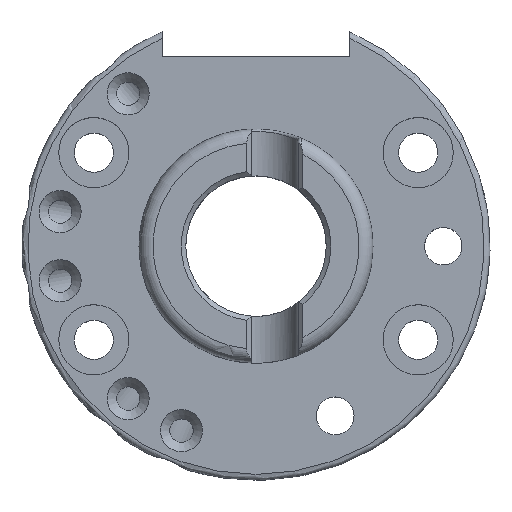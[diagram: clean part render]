
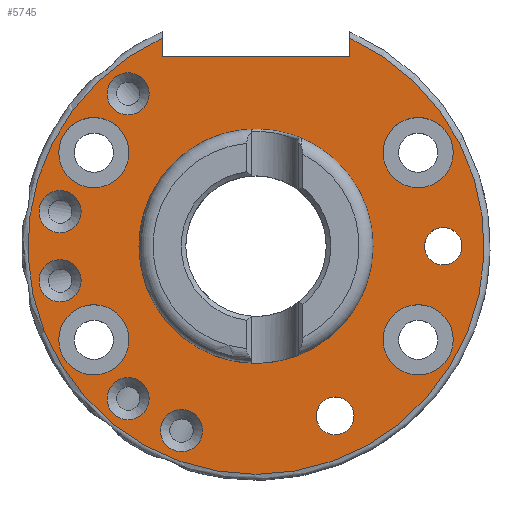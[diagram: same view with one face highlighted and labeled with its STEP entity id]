
A CAD part, top view. The second image highlights one B-rep face of the part: STEP entity #5745.
In plain terms, the highlighted planar face has unit normal (0, 0, 1).
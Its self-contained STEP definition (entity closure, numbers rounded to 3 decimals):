
#94=CIRCLE('',#5894,48.75);
#127=CIRCLE('',#5961,4.5);
#129=CIRCLE('',#5965,4.5);
#131=CIRCLE('',#5969,4.5);
#133=CIRCLE('',#5973,4.5);
#135=CIRCLE('',#5977,4.5);
#137=CIRCLE('',#5981,4.);
#141=CIRCLE('',#5987,7.5);
#145=CIRCLE('',#5994,7.5);
#149=CIRCLE('',#6001,7.5);
#153=CIRCLE('',#6008,7.5);
#155=CIRCLE('',#6012,4.05);
#161=CIRCLE('',#6026,25.);
#346=FACE_BOUND('',#1013,.T.);
#347=FACE_BOUND('',#1014,.T.);
#348=FACE_BOUND('',#1015,.T.);
#349=FACE_BOUND('',#1016,.T.);
#350=FACE_BOUND('',#1017,.T.);
#351=FACE_BOUND('',#1018,.T.);
#352=FACE_BOUND('',#1019,.T.);
#353=FACE_BOUND('',#1020,.T.);
#354=FACE_BOUND('',#1021,.T.);
#355=FACE_BOUND('',#1022,.T.);
#356=FACE_BOUND('',#1023,.T.);
#357=FACE_BOUND('',#1024,.T.);
#660=FACE_OUTER_BOUND('',#1012,.T.);
#1012=EDGE_LOOP('',(#5055,#5056,#5057,#5058));
#1013=EDGE_LOOP('',(#5059));
#1014=EDGE_LOOP('',(#5060));
#1015=EDGE_LOOP('',(#5061));
#1016=EDGE_LOOP('',(#5062));
#1017=EDGE_LOOP('',(#5063));
#1018=EDGE_LOOP('',(#5064));
#1019=EDGE_LOOP('',(#5065));
#1020=EDGE_LOOP('',(#5066));
#1021=EDGE_LOOP('',(#5067));
#1022=EDGE_LOOP('',(#5068));
#1023=EDGE_LOOP('',(#5069));
#1024=EDGE_LOOP('',(#5070));
#1433=LINE('',#12402,#1838);
#1435=LINE('',#12407,#1840);
#1438=LINE('',#12411,#1843);
#1838=VECTOR('',#6910,10.);
#1840=VECTOR('',#6914,10.);
#1843=VECTOR('',#6919,10.);
#2547=VERTEX_POINT('',#10411);
#2548=VERTEX_POINT('',#10422);
#2659=VERTEX_POINT('',#12276);
#2661=VERTEX_POINT('',#12284);
#2663=VERTEX_POINT('',#12292);
#2665=VERTEX_POINT('',#12300);
#2667=VERTEX_POINT('',#12308);
#2669=VERTEX_POINT('',#12316);
#2673=VERTEX_POINT('',#12327);
#2677=VERTEX_POINT('',#12340);
#2681=VERTEX_POINT('',#12353);
#2685=VERTEX_POINT('',#12366);
#2687=VERTEX_POINT('',#12374);
#2696=VERTEX_POINT('',#12400);
#2698=VERTEX_POINT('',#12406);
#2699=VERTEX_POINT('',#12413);
#3262=EDGE_CURVE('',#2547,#2548,#94,.T.);
#3433=EDGE_CURVE('',#2659,#2659,#127,.T.);
#3437=EDGE_CURVE('',#2661,#2661,#129,.T.);
#3441=EDGE_CURVE('',#2663,#2663,#131,.T.);
#3445=EDGE_CURVE('',#2665,#2665,#133,.T.);
#3449=EDGE_CURVE('',#2667,#2667,#135,.T.);
#3453=EDGE_CURVE('',#2669,#2669,#137,.T.);
#3458=EDGE_CURVE('',#2673,#2673,#141,.T.);
#3464=EDGE_CURVE('',#2677,#2677,#145,.T.);
#3470=EDGE_CURVE('',#2681,#2681,#149,.T.);
#3476=EDGE_CURVE('',#2685,#2685,#153,.T.);
#3480=EDGE_CURVE('',#2687,#2687,#155,.T.);
#3493=EDGE_CURVE('',#2547,#2696,#1433,.T.);
#3495=EDGE_CURVE('',#2698,#2548,#1435,.T.);
#3498=EDGE_CURVE('',#2696,#2698,#1438,.T.);
#3499=EDGE_CURVE('',#2699,#2699,#161,.T.);
#5055=ORIENTED_EDGE('',*,*,#3493,.T.);
#5056=ORIENTED_EDGE('',*,*,#3498,.T.);
#5057=ORIENTED_EDGE('',*,*,#3495,.T.);
#5058=ORIENTED_EDGE('',*,*,#3262,.F.);
#5059=ORIENTED_EDGE('',*,*,#3433,.T.);
#5060=ORIENTED_EDGE('',*,*,#3437,.T.);
#5061=ORIENTED_EDGE('',*,*,#3441,.T.);
#5062=ORIENTED_EDGE('',*,*,#3445,.T.);
#5063=ORIENTED_EDGE('',*,*,#3449,.T.);
#5064=ORIENTED_EDGE('',*,*,#3453,.T.);
#5065=ORIENTED_EDGE('',*,*,#3458,.T.);
#5066=ORIENTED_EDGE('',*,*,#3464,.T.);
#5067=ORIENTED_EDGE('',*,*,#3470,.T.);
#5068=ORIENTED_EDGE('',*,*,#3476,.T.);
#5069=ORIENTED_EDGE('',*,*,#3480,.T.);
#5070=ORIENTED_EDGE('',*,*,#3499,.T.);
#5281=PLANE('',#6025);
#5745=ADVANCED_FACE('',(#660,#346,#347,#348,#349,#350,#351,#352,#353,#354,
#355,#356,#357),#5281,.T.);
#5894=AXIS2_PLACEMENT_3D('',#10423,#6582,#6583);
#5961=AXIS2_PLACEMENT_3D('',#12277,#6760,#6761);
#5965=AXIS2_PLACEMENT_3D('',#12285,#6770,#6771);
#5969=AXIS2_PLACEMENT_3D('',#12293,#6780,#6781);
#5973=AXIS2_PLACEMENT_3D('',#12301,#6790,#6791);
#5977=AXIS2_PLACEMENT_3D('',#12309,#6800,#6801);
#5981=AXIS2_PLACEMENT_3D('',#12317,#6810,#6811);
#5987=AXIS2_PLACEMENT_3D('',#12328,#6823,#6824);
#5994=AXIS2_PLACEMENT_3D('',#12341,#6839,#6840);
#6001=AXIS2_PLACEMENT_3D('',#12354,#6855,#6856);
#6008=AXIS2_PLACEMENT_3D('',#12367,#6871,#6872);
#6012=AXIS2_PLACEMENT_3D('',#12375,#6881,#6882);
#6025=AXIS2_PLACEMENT_3D('',#12412,#6920,#6921);
#6026=AXIS2_PLACEMENT_3D('',#12414,#6922,#6923);
#6582=DIRECTION('center_axis',(0.,0.,-1.));
#6583=DIRECTION('ref_axis',(1.,0.,0.));
#6760=DIRECTION('center_axis',(0.,0.,-1.));
#6761=DIRECTION('ref_axis',(1.,0.,0.));
#6770=DIRECTION('center_axis',(0.,0.,-1.));
#6771=DIRECTION('ref_axis',(1.,0.,0.));
#6780=DIRECTION('center_axis',(0.,0.,-1.));
#6781=DIRECTION('ref_axis',(1.,0.,0.));
#6790=DIRECTION('center_axis',(0.,0.,-1.));
#6791=DIRECTION('ref_axis',(1.,0.,0.));
#6800=DIRECTION('center_axis',(0.,0.,-1.));
#6801=DIRECTION('ref_axis',(1.,0.,0.));
#6810=DIRECTION('center_axis',(0.,0.,-1.));
#6811=DIRECTION('ref_axis',(1.,0.,0.));
#6823=DIRECTION('center_axis',(0.,0.,-1.));
#6824=DIRECTION('ref_axis',(1.,0.,0.));
#6839=DIRECTION('center_axis',(0.,0.,-1.));
#6840=DIRECTION('ref_axis',(1.,0.,0.));
#6855=DIRECTION('center_axis',(0.,0.,-1.));
#6856=DIRECTION('ref_axis',(1.,0.,0.));
#6871=DIRECTION('center_axis',(0.,0.,-1.));
#6872=DIRECTION('ref_axis',(1.,0.,0.));
#6881=DIRECTION('center_axis',(0.,0.,-1.));
#6882=DIRECTION('ref_axis',(1.,0.,0.));
#6910=DIRECTION('',(0.,-1.,0.));
#6914=DIRECTION('',(0.,1.,0.));
#6919=DIRECTION('',(-1.,0.,0.));
#6920=DIRECTION('center_axis',(0.,0.,1.));
#6921=DIRECTION('ref_axis',(1.,0.,0.));
#6922=DIRECTION('center_axis',(0.,0.,-1.));
#6923=DIRECTION('ref_axis',(1.,0.,0.));
#10411=CARTESIAN_POINT('',(20.05,44.436,16.));
#10422=CARTESIAN_POINT('',(-20.05,44.436,16.));
#10423=CARTESIAN_POINT('Origin',(0.,0.,16.));
#12276=CARTESIAN_POINT('',(-31.818,-32.557,16.));
#12277=CARTESIAN_POINT('Origin',(-27.318,-32.557,16.));
#12284=CARTESIAN_POINT('',(-46.354,7.38,16.));
#12285=CARTESIAN_POINT('Origin',(-41.854,7.38,16.));
#12292=CARTESIAN_POINT('',(-31.818,32.557,16.));
#12293=CARTESIAN_POINT('Origin',(-27.318,32.557,16.));
#12300=CARTESIAN_POINT('',(-46.354,-7.38,16.));
#12301=CARTESIAN_POINT('Origin',(-41.854,-7.38,16.));
#12308=CARTESIAN_POINT('',(-20.421,-39.405,16.));
#12309=CARTESIAN_POINT('Origin',(-15.921,-39.405,16.));
#12316=CARTESIAN_POINT('',(36.,0.,16.));
#12317=CARTESIAN_POINT('Origin',(40.,0.,16.));
#12327=CARTESIAN_POINT('',(-42.141,20.,16.));
#12328=CARTESIAN_POINT('Origin',(-34.641,20.,16.));
#12340=CARTESIAN_POINT('',(27.141,-20.,16.));
#12341=CARTESIAN_POINT('Origin',(34.641,-20.,16.));
#12353=CARTESIAN_POINT('',(27.141,20.,16.));
#12354=CARTESIAN_POINT('Origin',(34.641,20.,16.));
#12366=CARTESIAN_POINT('',(-42.141,-20.,16.));
#12367=CARTESIAN_POINT('Origin',(-34.641,-20.,16.));
#12374=CARTESIAN_POINT('',(12.855,-36.252,16.));
#12375=CARTESIAN_POINT('Origin',(16.905,-36.252,16.));
#12400=CARTESIAN_POINT('',(20.05,40.5,16.));
#12402=CARTESIAN_POINT('',(20.05,25.,16.));
#12406=CARTESIAN_POINT('',(-20.05,40.5,16.));
#12407=CARTESIAN_POINT('',(-20.05,20.25,16.));
#12411=CARTESIAN_POINT('',(-14.35,40.5,16.));
#12412=CARTESIAN_POINT('Origin',(-48.75,0.,16.));
#12413=CARTESIAN_POINT('',(25.,0.,16.));
#12414=CARTESIAN_POINT('Origin',(0.,0.,16.));
